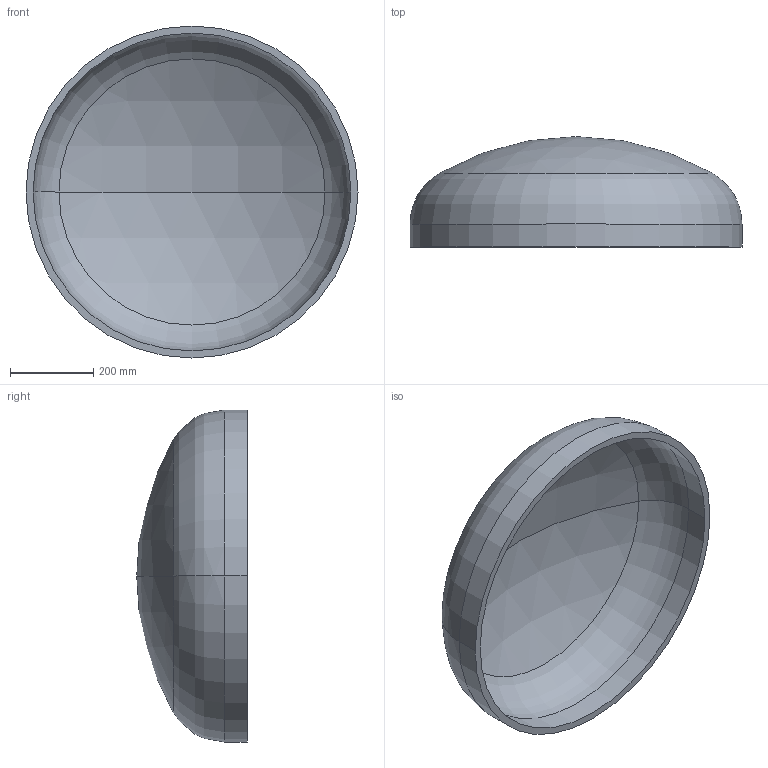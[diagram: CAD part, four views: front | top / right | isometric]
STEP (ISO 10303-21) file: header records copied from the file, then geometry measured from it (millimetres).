
FILE_DESCRIPTION (( 'STEP AP203' ), '1' );
FILE_NAME ('DIN 28013 Korbbogenform_-_Boden DIN 28013 - 800 x 55 - I - s=17.step', '2016-07-01T08:13:22', ( '' ), ( '' ), 'SwSTEP 2.0', 'SolidWorks 2013', '' );
FILE_SCHEMA (( 'CONFIG_CONTROL_DESIGN' ));
Length unit declared in the file: millimetre
Products named in the file (1): DIN 28013 Korbbogenform_-_Boden DIN 28013 - 800 x 55 - I - s=17
Bounding box: 800 x 266.29 x 800 mm (x, y, z)
Volume: 13842089.2 mm3; surface area: 1670903.6 mm2
Topology: 1 solids, 1 shells, 13 faces, 24 edges, 14 vertices
Faces by surface type: torus 4, cylinder 4, sphere 4, plane 1
Entity records: 407 total; most frequent: DIRECTION 72, CARTESIAN_POINT 52, ORIENTED_EDGE 48, AXIS2_PLACEMENT_3D 34, EDGE_CURVE 24, CIRCLE 20, EDGE_LOOP 14, VERTEX_POINT 14
